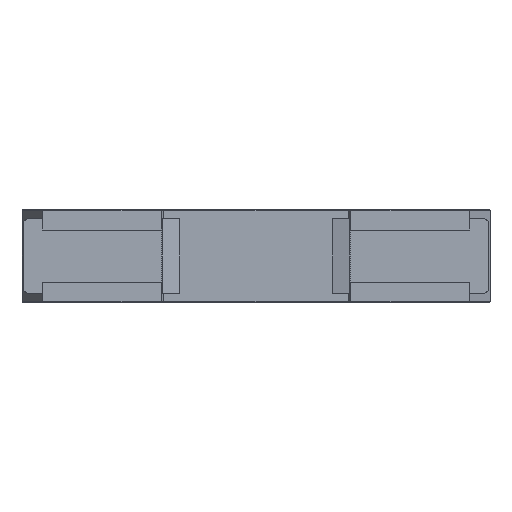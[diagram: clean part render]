
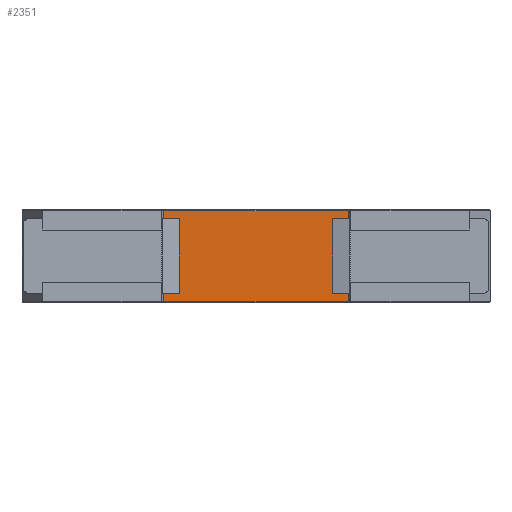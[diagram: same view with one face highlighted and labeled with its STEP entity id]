
A CAD part, front view. The second image highlights one B-rep face of the part: STEP entity #2351.
In plain terms, the highlighted planar face has unit normal (0, -1, 0).
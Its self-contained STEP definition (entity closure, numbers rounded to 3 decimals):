
#48 = CARTESIAN_POINT ( 'NONE',  ( 44.75, 0., 7.15 ) ) ;
#697 = VERTEX_POINT ( 'NONE', #2200 ) ;
#818 = EDGE_CURVE ( 'NONE', #12890, #17262, #3360, .T. ) ;
#850 = ORIENTED_EDGE ( 'NONE', *, *, #10376, .F. ) ;
#961 = CARTESIAN_POINT ( 'NONE',  ( 17.75, 0., -7.15 ) ) ;
#1000 = ORIENTED_EDGE ( 'NONE', *, *, #5360, .F. ) ;
#1031 = LINE ( 'NONE', #19348, #8017 ) ;
#1538 = VECTOR ( 'NONE', #13105, 1000. ) ;
#1708 = VERTEX_POINT ( 'NONE', #3698 ) ;
#2000 = VERTEX_POINT ( 'NONE', #12677 ) ;
#2192 = ORIENTED_EDGE ( 'NONE', *, *, #10104, .T. ) ;
#2200 = CARTESIAN_POINT ( 'NONE',  ( 17.5, 0., 7.15 ) ) ;
#2349 = CARTESIAN_POINT ( 'NONE',  ( 17.75, 0., 8.7 ) ) ;
#2351 = ADVANCED_FACE ( 'NONE', ( #20197 ), #13701, .F. ) ;
#3070 = ORIENTED_EDGE ( 'NONE', *, *, #18992, .F. ) ;
#3146 = VERTEX_POINT ( 'NONE', #13643 ) ;
#3162 = VERTEX_POINT ( 'NONE', #18548 ) ;
#3360 = LINE ( 'NONE', #6187, #14421 ) ;
#3384 = ORIENTED_EDGE ( 'NONE', *, *, #9400, .T. ) ;
#3698 = CARTESIAN_POINT ( 'NONE',  ( 17.75, 0., 7.15 ) ) ;
#4022 = LINE ( 'NONE', #12903, #1538 ) ;
#4111 = LINE ( 'NONE', #13994, #14934 ) ;
#5354 = VECTOR ( 'NONE', #10442, 1000. ) ;
#5360 = EDGE_CURVE ( 'NONE', #20058, #17262, #1031, .T. ) ;
#5491 = CARTESIAN_POINT ( 'NONE',  ( -17.5, 0., 8.9 ) ) ;
#5948 = ORIENTED_EDGE ( 'NONE', *, *, #14079, .T. ) ;
#6187 = CARTESIAN_POINT ( 'NONE',  ( -17.75, 0., -7.15 ) ) ;
#6190 = DIRECTION ( 'NONE',  ( -1., 0., 0. ) ) ;
#6920 = LINE ( 'NONE', #10057, #20067 ) ;
#6995 = ORIENTED_EDGE ( 'NONE', *, *, #20814, .F. ) ;
#7310 = VECTOR ( 'NONE', #19089, 1000. ) ;
#8017 = VECTOR ( 'NONE', #8202, 1000. ) ;
#8092 = ORIENTED_EDGE ( 'NONE', *, *, #19159, .F. ) ;
#8154 = DIRECTION ( 'NONE',  ( -1., 0., 0. ) ) ;
#8202 = DIRECTION ( 'NONE',  ( -1., 0., 0. ) ) ;
#8286 = LINE ( 'NONE', #9781, #8781 ) ;
#8663 = LINE ( 'NONE', #48, #9164 ) ;
#8761 = CARTESIAN_POINT ( 'NONE',  ( -17.75, 0., 8.9 ) ) ;
#8781 = VECTOR ( 'NONE', #8154, 1000. ) ;
#8845 = EDGE_CURVE ( 'NONE', #3146, #10979, #6920, .T. ) ;
#9164 = VECTOR ( 'NONE', #6190, 1000. ) ;
#9380 = CARTESIAN_POINT ( 'NONE',  ( 17.5, 0., -7.15 ) ) ;
#9400 = EDGE_CURVE ( 'NONE', #10979, #3162, #13430, .T. ) ;
#9718 = DIRECTION ( 'NONE',  ( 1., 0., 0. ) ) ;
#9781 = CARTESIAN_POINT ( 'NONE',  ( -17.75, 0., -8.7 ) ) ;
#10057 = CARTESIAN_POINT ( 'NONE',  ( -44.75, 0., -7.15 ) ) ;
#10104 = EDGE_CURVE ( 'NONE', #10619, #20398, #15372, .T. ) ;
#10376 = EDGE_CURVE ( 'NONE', #2000, #3162, #8286, .T. ) ;
#10442 = DIRECTION ( 'NONE',  ( 0., 0., -1. ) ) ;
#10619 = VERTEX_POINT ( 'NONE', #961 ) ;
#10703 = CARTESIAN_POINT ( 'NONE',  ( 44.75, 0., -7.15 ) ) ;
#10979 = VERTEX_POINT ( 'NONE', #16109 ) ;
#10981 = DIRECTION ( 'NONE',  ( 0., 0., 1. ) ) ;
#11061 = CARTESIAN_POINT ( 'NONE',  ( 17.75, 0., 8.9 ) ) ;
#11443 = CARTESIAN_POINT ( 'NONE',  ( -17.75, 0., 7.15 ) ) ;
#12391 = DIRECTION ( 'NONE',  ( 0., 0., -1. ) ) ;
#12677 = CARTESIAN_POINT ( 'NONE',  ( 17.75, 0., -8.7 ) ) ;
#12890 = VERTEX_POINT ( 'NONE', #20780 ) ;
#12903 = CARTESIAN_POINT ( 'NONE',  ( 17.75, 0., 8.9 ) ) ;
#13105 = DIRECTION ( 'NONE',  ( 0., 0., -1. ) ) ;
#13430 = LINE ( 'NONE', #15257, #5354 ) ;
#13531 = LINE ( 'NONE', #19521, #15057 ) ;
#13592 = DIRECTION ( 'NONE',  ( 0., 0., 1. ) ) ;
#13643 = CARTESIAN_POINT ( 'NONE',  ( -17.5, 0., -7.15 ) ) ;
#13690 = EDGE_LOOP ( 'NONE', ( #8092, #20759, #3384, #850, #5948, #2192, #6995, #14782, #20191, #3070, #16758, #1000 ) ) ;
#13701 = PLANE ( 'NONE',  #17370 ) ;
#13994 = CARTESIAN_POINT ( 'NONE',  ( 17.5, 0., 8.9 ) ) ;
#14079 = EDGE_CURVE ( 'NONE', #2000, #10619, #20737, .T. ) ;
#14246 = CARTESIAN_POINT ( 'NONE',  ( -17.5, 0., 7.15 ) ) ;
#14421 = VECTOR ( 'NONE', #18837, 1000. ) ;
#14675 = EDGE_CURVE ( 'NONE', #16371, #1708, #4022, .T. ) ;
#14782 = ORIENTED_EDGE ( 'NONE', *, *, #19427, .F. ) ;
#14934 = VECTOR ( 'NONE', #12391, 1000. ) ;
#15057 = VECTOR ( 'NONE', #9718, 1000. ) ;
#15257 = CARTESIAN_POINT ( 'NONE',  ( -17.75, 0., -7.15 ) ) ;
#15372 = LINE ( 'NONE', #10703, #7310 ) ;
#16109 = CARTESIAN_POINT ( 'NONE',  ( -17.75, 0., -7.15 ) ) ;
#16371 = VERTEX_POINT ( 'NONE', #2349 ) ;
#16758 = ORIENTED_EDGE ( 'NONE', *, *, #818, .T. ) ;
#17133 = DIRECTION ( 'NONE',  ( 1., 0., 0. ) ) ;
#17262 = VERTEX_POINT ( 'NONE', #11443 ) ;
#17370 = AXIS2_PLACEMENT_3D ( 'NONE', #8761, #20262, #17133 ) ;
#18548 = CARTESIAN_POINT ( 'NONE',  ( -17.75, 0., -8.7 ) ) ;
#18696 = VECTOR ( 'NONE', #10981, 1000. ) ;
#18837 = DIRECTION ( 'NONE',  ( 0., 0., -1. ) ) ;
#18992 = EDGE_CURVE ( 'NONE', #12890, #16371, #13531, .T. ) ;
#19089 = DIRECTION ( 'NONE',  ( -1., 0., 0. ) ) ;
#19159 = EDGE_CURVE ( 'NONE', #3146, #20058, #20635, .T. ) ;
#19348 = CARTESIAN_POINT ( 'NONE',  ( -17.75, 0., 7.15 ) ) ;
#19427 = EDGE_CURVE ( 'NONE', #1708, #697, #8663, .T. ) ;
#19521 = CARTESIAN_POINT ( 'NONE',  ( 0., 0., 8.7 ) ) ;
#19638 = DIRECTION ( 'NONE',  ( -1., 0., 0. ) ) ;
#20058 = VERTEX_POINT ( 'NONE', #14246 ) ;
#20067 = VECTOR ( 'NONE', #19638, 1000. ) ;
#20191 = ORIENTED_EDGE ( 'NONE', *, *, #14675, .F. ) ;
#20197 = FACE_OUTER_BOUND ( 'NONE', #13690, .T. ) ;
#20262 = DIRECTION ( 'NONE',  ( 0., 1., 0. ) ) ;
#20398 = VERTEX_POINT ( 'NONE', #9380 ) ;
#20635 = LINE ( 'NONE', #5491, #20879 ) ;
#20737 = LINE ( 'NONE', #11061, #18696 ) ;
#20759 = ORIENTED_EDGE ( 'NONE', *, *, #8845, .T. ) ;
#20780 = CARTESIAN_POINT ( 'NONE',  ( -17.75, 0., 8.7 ) ) ;
#20814 = EDGE_CURVE ( 'NONE', #697, #20398, #4111, .T. ) ;
#20879 = VECTOR ( 'NONE', #13592, 1000. ) ;
